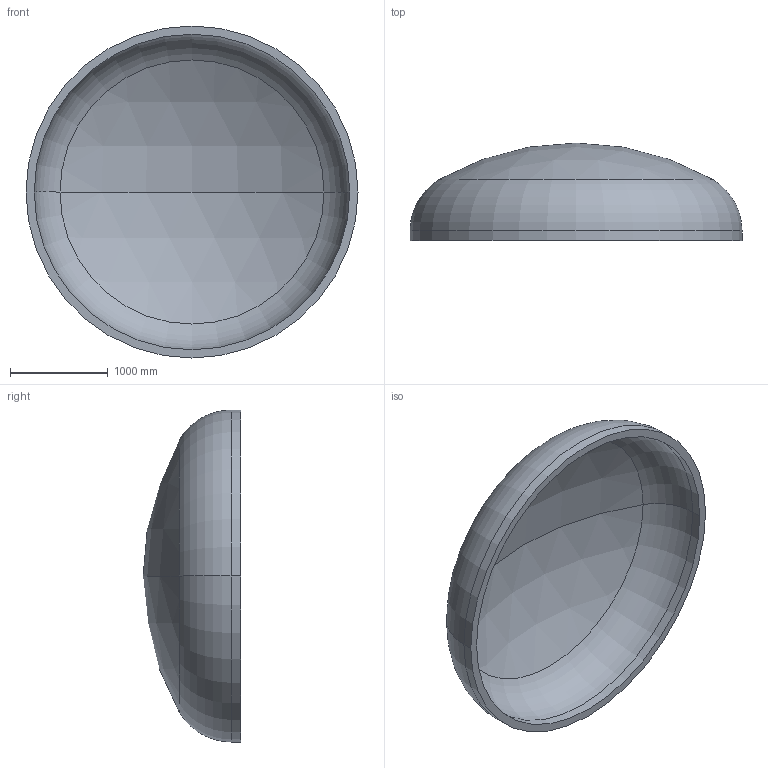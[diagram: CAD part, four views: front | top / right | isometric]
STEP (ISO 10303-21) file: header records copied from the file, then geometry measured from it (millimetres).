
FILE_DESCRIPTION (( 'STEP AP203' ), '1' );
FILE_NAME ('DIN 28013 Korbbogenform_-_Boden DIN 28013 - 3400 x 100 - I - s=84.step', '2016-07-01T19:47:11', ( '' ), ( '' ), 'SwSTEP 2.0', 'SolidWorks 2013', '' );
FILE_SCHEMA (( 'CONFIG_CONTROL_DESIGN' ));
Length unit declared in the file: millimetre
Products named in the file (1): DIN 28013 Korbbogenform_-_Boden DIN 28013 - 3400 x 100 - I - s=84
Bounding box: 3400 x 999.34 x 3400 mm (x, y, z)
Volume: 1110629649.9 mm3; surface area: 27333403.9 mm2
Topology: 1 solids, 1 shells, 13 faces, 24 edges, 14 vertices
Faces by surface type: torus 4, cylinder 4, sphere 4, plane 1
Entity records: 407 total; most frequent: DIRECTION 72, CARTESIAN_POINT 52, ORIENTED_EDGE 48, AXIS2_PLACEMENT_3D 34, EDGE_CURVE 24, CIRCLE 20, EDGE_LOOP 14, VERTEX_POINT 14
